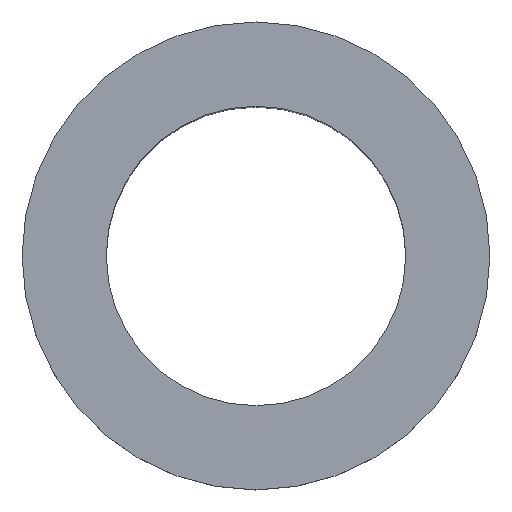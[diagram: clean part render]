
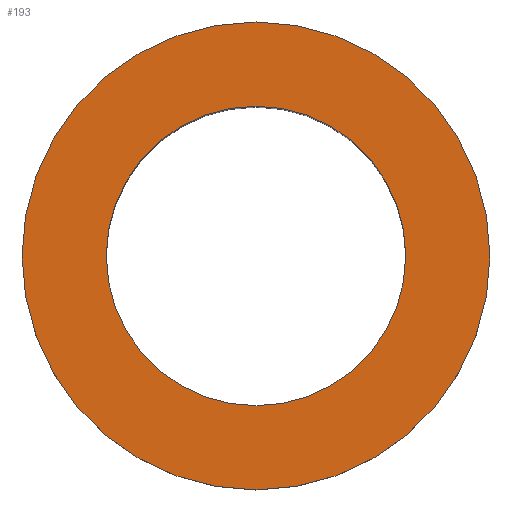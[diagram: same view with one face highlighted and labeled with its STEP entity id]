
A CAD part, top view. The second image highlights one B-rep face of the part: STEP entity #193.
In plain terms, the highlighted planar face has unit normal (0, 0, 1).
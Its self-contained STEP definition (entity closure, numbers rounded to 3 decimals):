
#193=ADVANCED_FACE('',(#223,#224),#220,.T.);
#220=PLANE('',#486);
#223=FACE_BOUND('',#229,.T.);
#224=FACE_BOUND('',#230,.T.);
#229=EDGE_LOOP('',(#259,#260));
#230=EDGE_LOOP('',(#261,#262));
#259=ORIENTED_EDGE('',*,*,#397,.T.);
#260=ORIENTED_EDGE('',*,*,#398,.T.);
#261=ORIENTED_EDGE('',*,*,#399,.F.);
#262=ORIENTED_EDGE('',*,*,#400,.F.);
#367=VERTEX_POINT('',#681);
#368=VERTEX_POINT('',#682);
#369=VERTEX_POINT('',#685);
#370=VERTEX_POINT('',#686);
#397=EDGE_CURVE('',#367,#368,#451,.T.);
#398=EDGE_CURVE('',#368,#367,#452,.T.);
#399=EDGE_CURVE('',#369,#370,#453,.T.);
#400=EDGE_CURVE('',#370,#369,#454,.T.);
#451=CIRCLE('',#482,12.5);
#452=CIRCLE('',#483,12.5);
#453=CIRCLE('',#484,8.);
#454=CIRCLE('',#485,8.);
#482=AXIS2_PLACEMENT_3D('',#680,#541,#542);
#483=AXIS2_PLACEMENT_3D('',#683,#543,#544);
#484=AXIS2_PLACEMENT_3D('',#684,#545,#546);
#485=AXIS2_PLACEMENT_3D('',#687,#547,#548);
#486=AXIS2_PLACEMENT_3D('',#688,#549,#550);
#541=DIRECTION('',(0.,0.,1.));
#542=DIRECTION('',(0.,1.,0.));
#543=DIRECTION('',(0.,0.,1.));
#544=DIRECTION('',(0.,-1.,0.));
#545=DIRECTION('',(0.,0.,1.));
#546=DIRECTION('',(0.,-1.,0.));
#547=DIRECTION('',(0.,0.,1.));
#548=DIRECTION('',(0.,1.,0.));
#549=DIRECTION('',(0.,0.,1.));
#550=DIRECTION('',(0.,1.,0.));
#680=CARTESIAN_POINT('',(0.,0.,3.));
#681=CARTESIAN_POINT('',(-12.5,0.,3.));
#682=CARTESIAN_POINT('',(12.5,0.,3.));
#683=CARTESIAN_POINT('',(0.,0.,3.));
#684=CARTESIAN_POINT('',(0.,0.,3.));
#685=CARTESIAN_POINT('',(8.,0.,3.));
#686=CARTESIAN_POINT('',(-8.,0.,3.));
#687=CARTESIAN_POINT('',(0.,0.,3.));
#688=CARTESIAN_POINT('',(0.,0.,3.));
